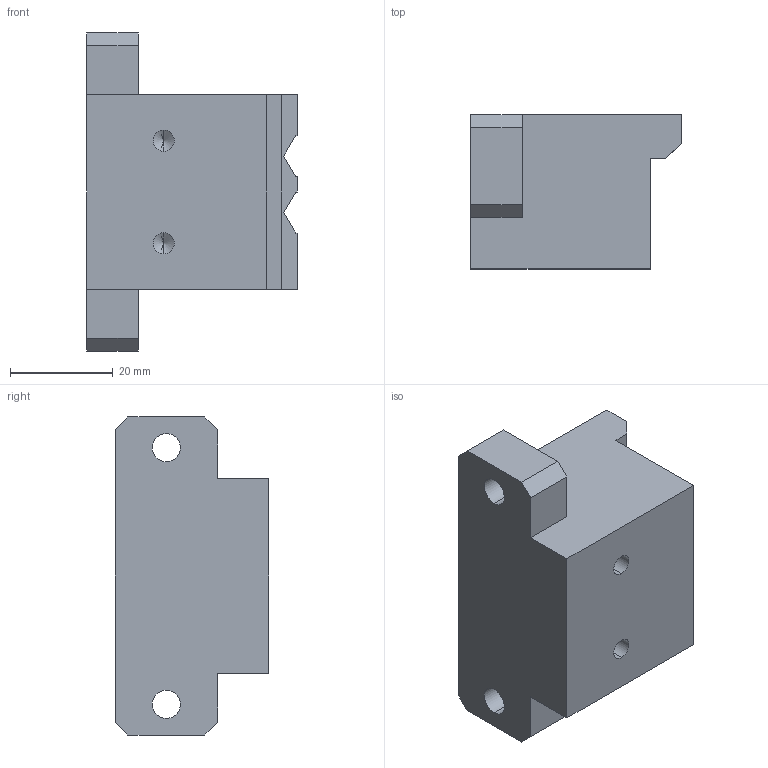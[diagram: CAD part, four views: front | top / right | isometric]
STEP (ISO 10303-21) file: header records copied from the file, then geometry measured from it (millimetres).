
FILE_DESCRIPTION (( 'STEP AP214' ), '1' );
FILE_NAME ('GZ46.05_V1固定座.STEP', '2021-06-25T01:36:23', ( '微软中国' ), ( 'Microsoft' ), 'SwSTEP 2.0', 'SolidWorks 2017', '' );
FILE_SCHEMA (( 'AUTOMOTIVE_DESIGN' ));
Length unit declared in the file: millimetre
Products named in the file (1): GZ46.05_V1嘐隅釱
Bounding box: 41 x 30 x 62 mm (x, y, z)
Volume: 43354.9 mm3; surface area: 9959.2 mm2
Topology: 1 solids, 1 shells, 61 faces, 167 edges, 108 vertices
Faces by surface type: plane 43, cylinder 14, cone 4
Entity records: 1975 total; most frequent: CARTESIAN_POINT 333, ORIENTED_EDGE 326, DIRECTION 315, EDGE_CURVE 163, LINE 135, VECTOR 135, VERTEX_POINT 108, AXIS2_PLACEMENT_3D 90
